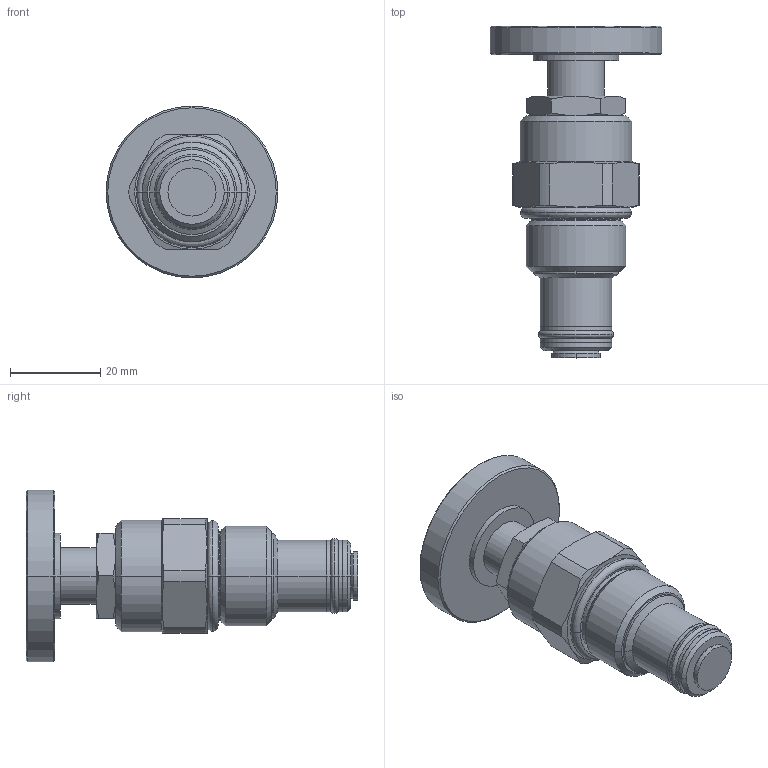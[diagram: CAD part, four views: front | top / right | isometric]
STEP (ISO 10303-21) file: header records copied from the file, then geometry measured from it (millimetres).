
FILE_DESCRIPTION((''),'2;1');
FILE_NAME('FC10-21D','2009-02-03T',('jcs'),(''),'PRO/ENGINEER BY PARAMETRIC TECHNOLOGY CORPORATION, 2008010','PRO/ENGINEER BY PARAMETRIC TECHNOLOGY CORPORATION, 2008010','');
FILE_SCHEMA(('CONFIG_CONTROL_DESIGN'));
Length unit declared in the file: inch
Products named in the file (1): FC10-21D
Bounding box: 38.1 x 73.54 x 38.1 mm (x, y, z)
Volume: 29015.8 mm3; surface area: 9869.6 mm2
Topology: 3 solids, 3 shells, 168 faces, 380 edges, 225 vertices
Faces by surface type: cone 54, plane 44, cylinder 42, revolution 16, torus 12
Entity records: 5272 total; most frequent: CARTESIAN_POINT 1481, DIRECTION 812, ORIENTED_EDGE 756, EDGE_CURVE 378, AXIS2_PLACEMENT_3D 336, VERTEX_POINT 225, CIRCLE 184, EDGE_LOOP 181
